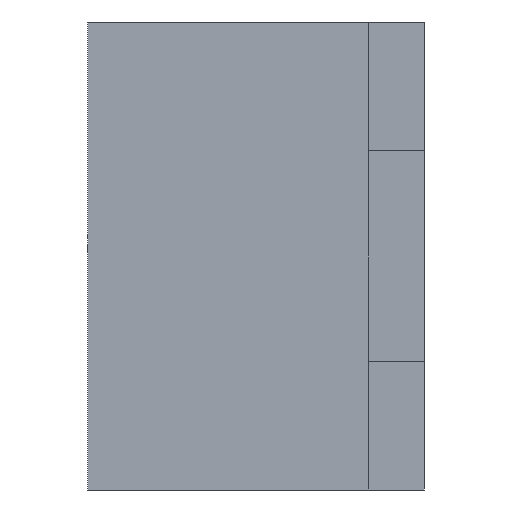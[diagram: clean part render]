
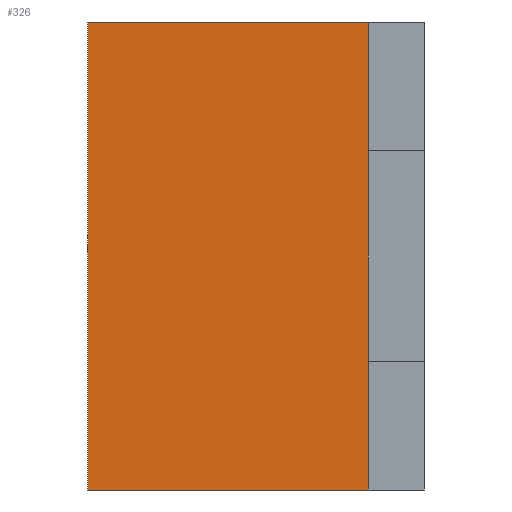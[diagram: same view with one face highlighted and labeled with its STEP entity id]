
A CAD part, left-side view. The second image highlights one B-rep face of the part: STEP entity #326.
In plain terms, the highlighted planar face has unit normal (-1, 0, 0).
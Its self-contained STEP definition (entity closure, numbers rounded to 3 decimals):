
#1 = ORIENTED_EDGE ( 'NONE', *, *, #68, .T. ) ;
#24 = CARTESIAN_POINT ( 'NONE',  ( -11.5, 0., -5. ) ) ;
#61 = CARTESIAN_POINT ( 'NONE',  ( -11.5, 6., 5. ) ) ;
#63 = ORIENTED_EDGE ( 'NONE', *, *, #790, .F. ) ;
#68 = EDGE_CURVE ( 'NONE', #511, #874, #315, .T. ) ;
#96 = PLANE ( 'NONE',  #526 ) ;
#229 = LINE ( 'NONE', #801, #765 ) ;
#257 = EDGE_CURVE ( 'NONE', #874, #302, #716, .T. ) ;
#275 = ORIENTED_EDGE ( 'NONE', *, *, #281, .F. ) ;
#281 = EDGE_CURVE ( 'NONE', #511, #534, #860, .T. ) ;
#302 = VERTEX_POINT ( 'NONE', #318 ) ;
#304 = CARTESIAN_POINT ( 'NONE',  ( -11.5, 6., -5. ) ) ;
#307 = DIRECTION ( 'NONE',  ( 0., -1., 0. ) ) ;
#315 = LINE ( 'NONE', #397, #888 ) ;
#318 = CARTESIAN_POINT ( 'NONE',  ( -11.5, 0., 5. ) ) ;
#326 = ADVANCED_FACE ( 'NONE', ( #386 ), #96, .F. ) ;
#327 = DIRECTION ( 'NONE',  ( 0., -1., 0. ) ) ;
#386 = FACE_OUTER_BOUND ( 'NONE', #795, .T. ) ;
#397 = CARTESIAN_POINT ( 'NONE',  ( -11.5, 6., -5. ) ) ;
#413 = VECTOR ( 'NONE', #702, 1000. ) ;
#454 = ORIENTED_EDGE ( 'NONE', *, *, #257, .T. ) ;
#457 = DIRECTION ( 'NONE',  ( 0., 0., -1. ) ) ;
#493 = CARTESIAN_POINT ( 'NONE',  ( -11.5, 6., -5. ) ) ;
#511 = VERTEX_POINT ( 'NONE', #754 ) ;
#526 = AXIS2_PLACEMENT_3D ( 'NONE', #304, #578, #457 ) ;
#534 = VERTEX_POINT ( 'NONE', #61 ) ;
#555 = CARTESIAN_POINT ( 'NONE',  ( -11.5, 0., -5. ) ) ;
#578 = DIRECTION ( 'NONE',  ( 1., 0., 0. ) ) ;
#642 = VECTOR ( 'NONE', #711, 1000. ) ;
#702 = DIRECTION ( 'NONE',  ( 0., 0., 1. ) ) ;
#711 = DIRECTION ( 'NONE',  ( 0., 0., 1. ) ) ;
#716 = LINE ( 'NONE', #555, #642 ) ;
#754 = CARTESIAN_POINT ( 'NONE',  ( -11.5, 6., -5. ) ) ;
#765 = VECTOR ( 'NONE', #307, 1000. ) ;
#790 = EDGE_CURVE ( 'NONE', #534, #302, #229, .T. ) ;
#795 = EDGE_LOOP ( 'NONE', ( #454, #63, #275, #1 ) ) ;
#801 = CARTESIAN_POINT ( 'NONE',  ( -11.5, 6., 5. ) ) ;
#860 = LINE ( 'NONE', #493, #413 ) ;
#874 = VERTEX_POINT ( 'NONE', #24 ) ;
#888 = VECTOR ( 'NONE', #327, 1000. ) ;
